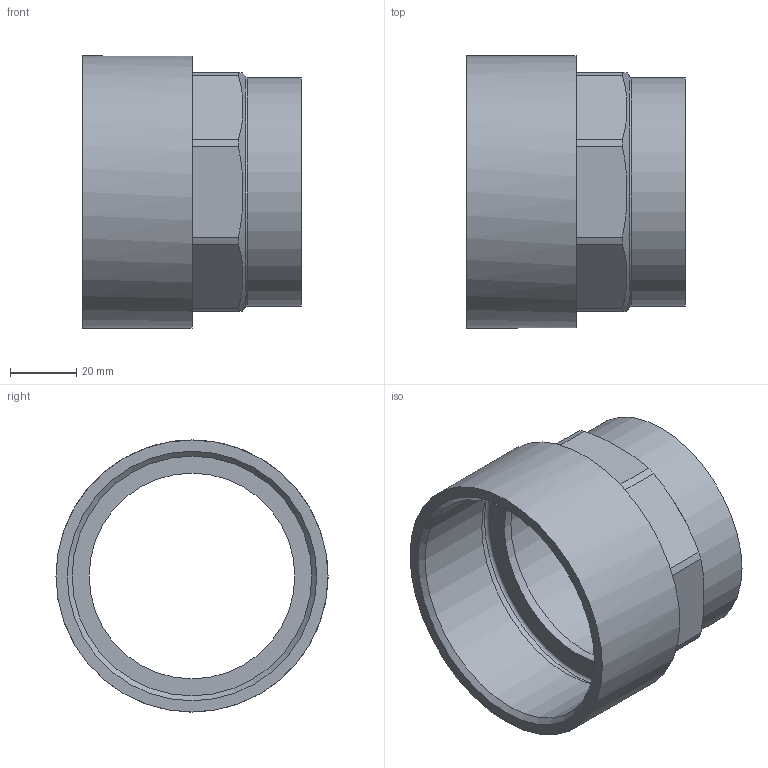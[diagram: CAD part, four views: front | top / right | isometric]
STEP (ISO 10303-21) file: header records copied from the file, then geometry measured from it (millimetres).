
FILE_DESCRIPTION(/* description */ (''),/* implementation_level */ '2;1');
FILE_NAME(/* name */ 'C:\Users\gomulka\Desktop\Nowy folder (2)\14270_64-212(3).stp',/* time_stamp */ '2017-10-19T09:37:13+02:00',/* author */ ('gomulka'),/* organization */ (''),/* preprocessor_version */ 'ST-DEVELOPER v15.6',/* originating_system */ 'Autodesk Inventor 2015',/* authorisation */ '');
FILE_SCHEMA (('AUTOMOTIVE_DESIGN { 1 0 10303 214 3 1 1 }'));
Length unit declared in the file: millimetre
Products named in the file (1): 14270_64-212(3)
Bounding box: 66 x 82 x 82 mm (x, y, z)
Volume: 65534.3 mm3; surface area: 34916 mm2
Topology: 1 solids, 1 shells, 32 faces, 76 edges, 49 vertices
Faces by surface type: cylinder 14, plane 13, cone 3, torus 2
Full cylindrical faces by diameter (mm): 62 x1, 64 x1, 69 x1, 72.226 x1, 77 x1, 82 x1
Entity records: 878 total; most frequent: CARTESIAN_POINT 159, DIRECTION 152, ORIENTED_EDGE 126, AXIS2_PLACEMENT_3D 64, EDGE_CURVE 63, EDGE_LOOP 48, VERTEX_POINT 47, FACE_OUTER_BOUND 32
